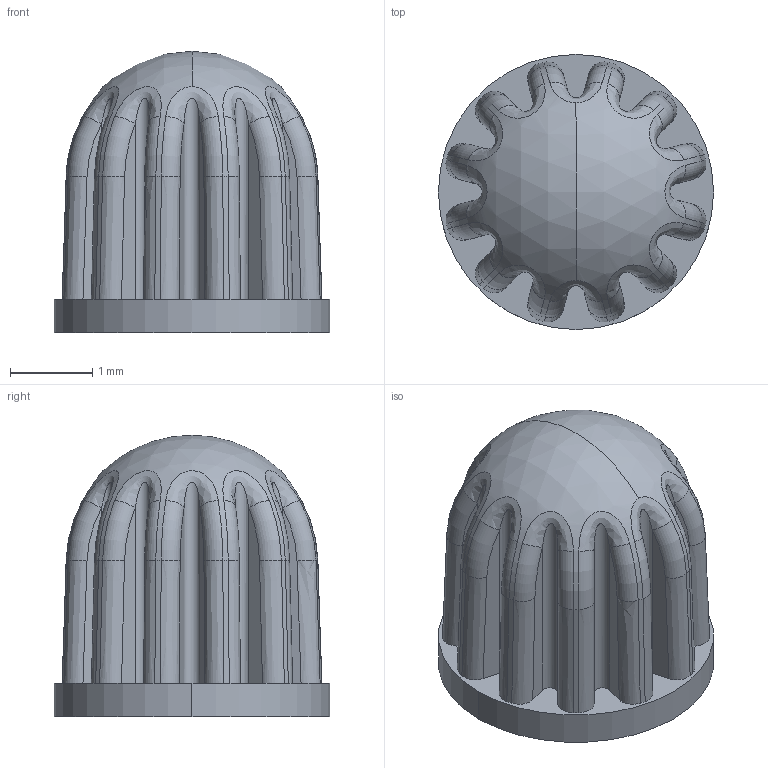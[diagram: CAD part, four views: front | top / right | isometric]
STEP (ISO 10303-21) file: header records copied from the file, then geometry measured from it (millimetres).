
FILE_DESCRIPTION (( 'STEP AP214' ), '1' );
FILE_NAME ('3DFSFA1300200A.STEP', '2021-03-31T18:12:12', ( '' ), ( '' ), 'SwSTEP 2.0', 'SolidWorks 2019', '' );
FILE_SCHEMA (( 'AUTOMOTIVE_DESIGN' ));
Length unit declared in the file: inch
Products named in the file (1): 3DFSFA1300200A
Bounding box: 3.35 x 3.35 x 3.43 mm (x, y, z)
Volume: 19.9 mm3; surface area: 57.8 mm2
Topology: 1 solids, 1 shells, 300 faces, 781 edges, 505 vertices
Faces by surface type: plane 136, bspline 107, torus 24, cylinder 19, cone 12, sphere 2
Entity records: 17196 total; most frequent: CARTESIAN_POINT 8113, ORIENTED_EDGE 1562, DIRECTION 1067, EDGE_CURVE 781, VERTEX_POINT 505, VECTOR 393, LINE 393, AXIS2_PLACEMENT_3D 337
